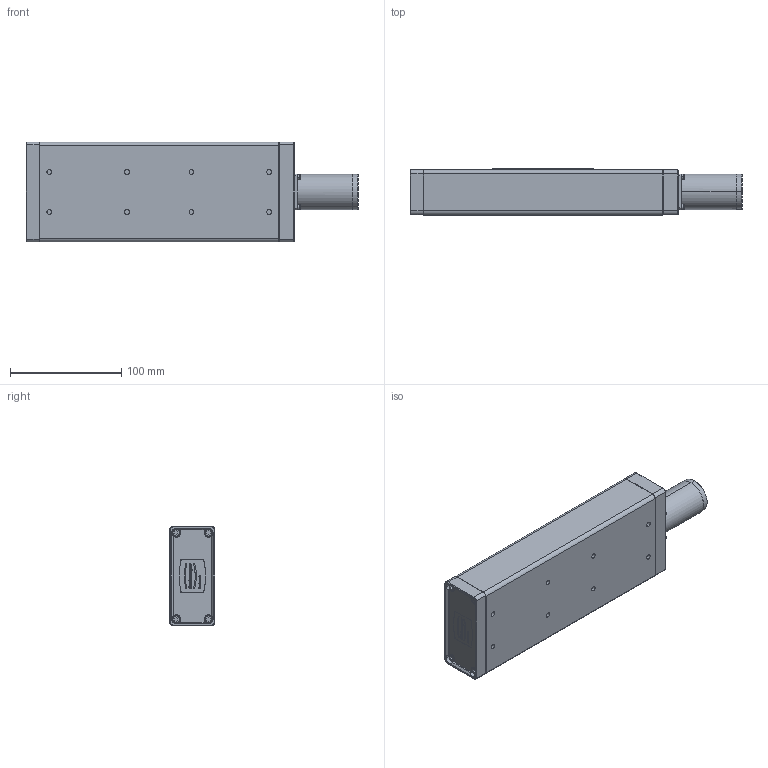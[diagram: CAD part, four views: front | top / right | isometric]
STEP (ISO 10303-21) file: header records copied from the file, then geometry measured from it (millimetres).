
FILE_DESCRIPTION((''),'2;1');
FILE_NAME('STM_LTP90_552371_ASM','2026-04-23T14:22:07',('profile'),(''),'CREO PARAMETRIC BY PTC INC, 2025123','CREO PARAMETRIC BY PTC INC, 2025123','');
FILE_SCHEMA(('AP242_MANAGED_MODEL_BASED_3D_ENGINEERING_MIM_LF { 1 0 10303 442 1 1 4 }'));
Length unit declared in the file: millimetre
Products named in the file (7): STM_GRUND_552370; AL_ALUMINIUM; STM_SCHIE_552368; STM_ABDEC_552369; STM_LTP90_552371_ASM
Assembly tree (3 placements, depth 2):
  AL_ALUMINIUM
  AL_ALUMINIUM
  AL_ALUMINIUM
  STM_LTP90_552371_ASM
    STM_GRUND_552370
    STM_SCHIE_552368
    STM_ABDEC_552369
Bounding box: 299 x 41.3 x 90 mm (x, y, z)
Volume: 735190.9 mm3; surface area: 137158.7 mm2
Topology: 3 solids, 3 shells, 903 faces, 2189 edges, 1382 vertices
Faces by surface type: plane 519, cylinder 181, extrusion 105, cone 98
Entity records: 39997 total; most frequent: CARTESIAN_POINT 10090, ORIENTED_EDGE 4378, DIRECTION 4206, PRESENTATION_STYLE_ASSIGNMENT 2299, STYLED_ITEM 2228, CURVE_STYLE 2225, EDGE_CURVE 2189, VECTOR 1614
